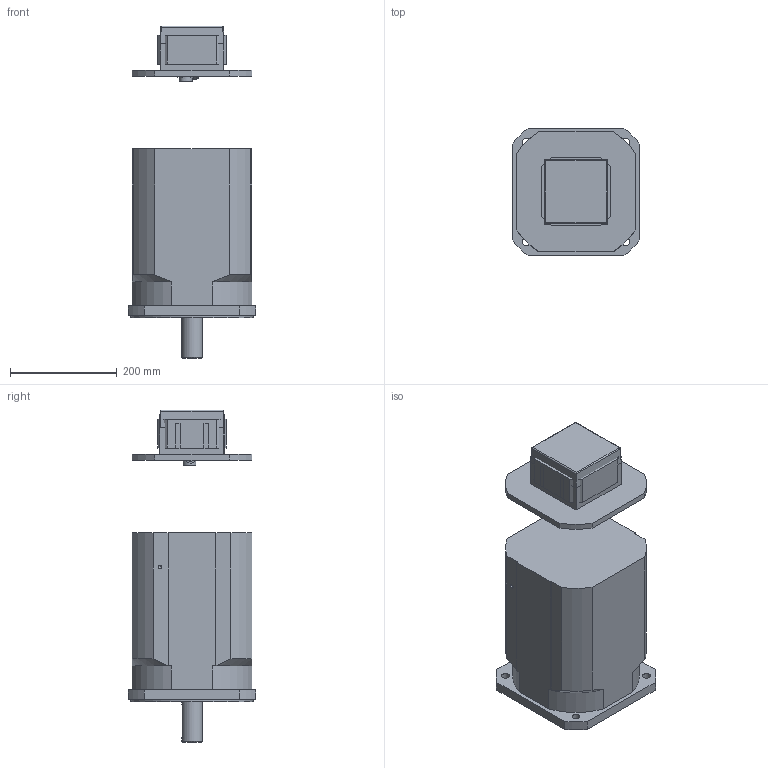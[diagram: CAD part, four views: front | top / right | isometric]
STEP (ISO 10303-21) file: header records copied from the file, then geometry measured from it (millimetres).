
FILE_DESCRIPTION(/* description */ ('Alibre Inc.'),/* implementation_level */ '2;1');
FILE_NAME(/* name */ 'export0',/* time_stamp */ '2011-10-26T08:36:04+02:00',/* author */ (''),/* organization */ (''),/* preprocessor_version */ 'ST-DEVELOPER v12',/* originating_system */ 'Alibre',/* authorisation */ '');
FILE_SCHEMA (('ALIBRE_SCHEMA','CONFIG_CONTROL_DESIGN'));
Length unit declared in the file: millimetre
Products named in the file (9): ID_1; ID_2
Bounding box: 240 x 240 x 623.5 mm (x, y, z)
Volume: 17483625.5 mm3; surface area: 633962.2 mm2
Topology: 8 solids, 8 shells, 243 faces, 610 edges, 392 vertices
Faces by surface type: plane 127, cylinder 86, torus 15, cone 11, bspline 4
Full cylindrical faces by diameter (mm): 2.7 x4, 6.647 x3, 10.106 x1, 15 x5, 20 x4, 24 x1, 25 x2, 26.75 x1, 30 x2, 38 x1, 45 x1, 230 x1
Entity records: 25119 total; most frequent: CARTESIAN_POINT 5389, DIRECTION 2903, ORIENTED_EDGE 2822, EDGE_CURVE 1411, AXIS2_PLACEMENT_3D 1180, VERTEX_POINT 980, VECTOR 892, LINE 826
